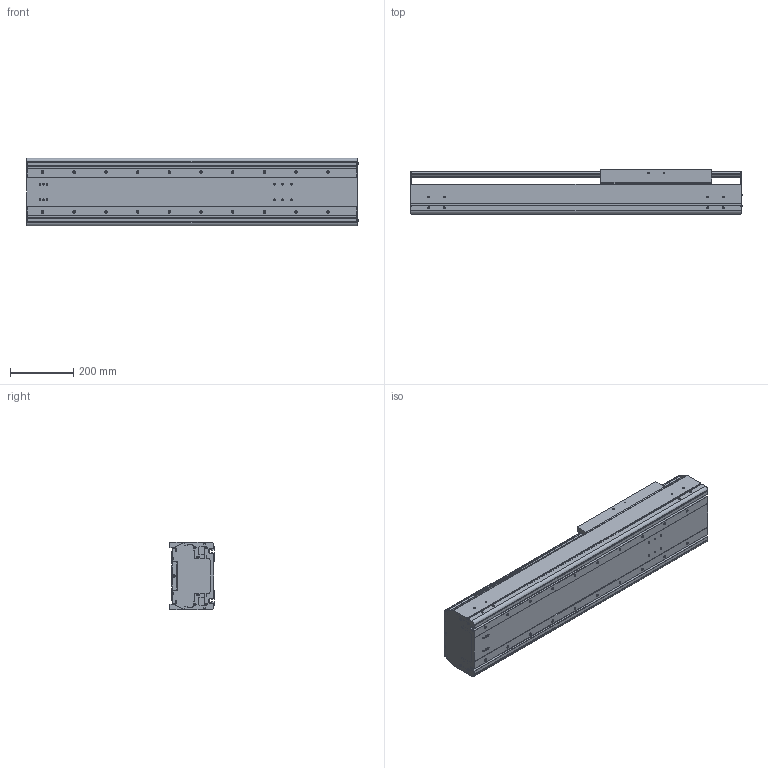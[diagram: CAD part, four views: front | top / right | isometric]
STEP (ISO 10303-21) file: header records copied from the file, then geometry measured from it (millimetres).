
FILE_DESCRIPTION((''),'2;1');
FILE_NAME('BE60G-ST-L_B-55_IGS_PRT','2017-06-18T',(' '),(''),'PRO/ENGINEER BY PARAMETRIC TECHNOLOGY CORPORATION, 2015030','PRO/ENGINEER BY PARAMETRIC TECHNOLOGY CORPORATION, 2015030','');
FILE_SCHEMA(('CONFIG_CONTROL_DESIGN'));
Length unit declared in the file: millimetre
Products named in the file (1): BE60G-ST-L_B-55_IGS_PRT
Bounding box: 1047.4 x 140 x 214 mm (x, y, z)
Volume: 9125038 mm3; surface area: 2374253.1 mm2
Topology: 2 solids, 124 shells, 1470 faces, 4068 edges, 2663 vertices
Faces by surface type: cylinder 728, plane 594, cone 100, sphere 24, torus 24
Entity records: 48497 total; most frequent: CARTESIAN_POINT 10557, DIRECTION 8056, ORIENTED_EDGE 7460, EDGE_CURVE 3970, AXIS2_PLACEMENT_3D 2987, VERTEX_POINT 2662, VECTOR 2082, LINE 2082
